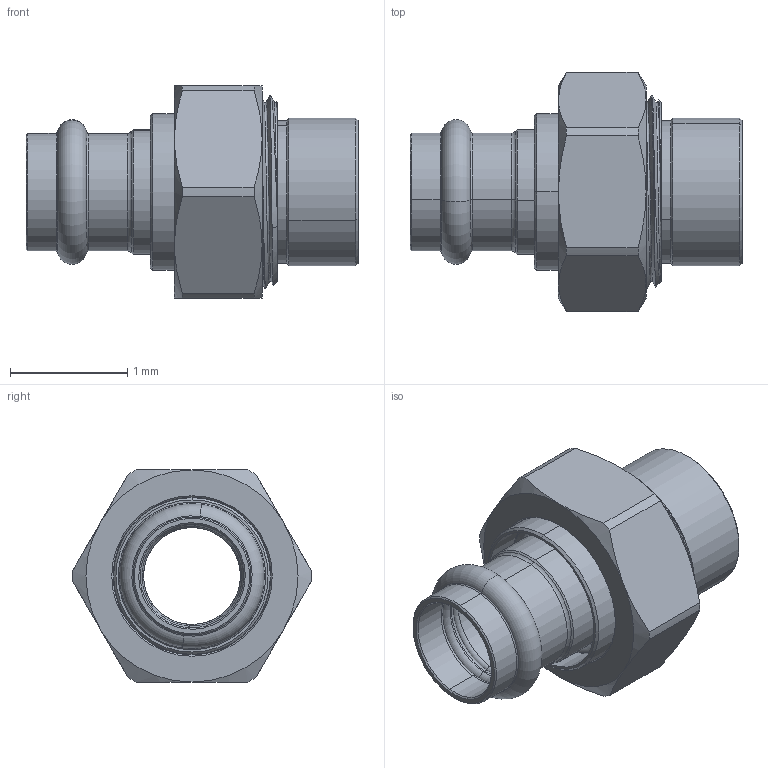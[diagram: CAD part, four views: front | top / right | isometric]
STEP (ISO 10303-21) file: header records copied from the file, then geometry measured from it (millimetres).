
FILE_DESCRIPTION(('Open CASCADE Model'),'2;1');
FILE_NAME('Open CASCADE Shape Model','2022-06-28T09:14:26',('Author'),( 'Open CASCADE'),'Open CASCADE STEP processor 7.3','Open CASCADE 7.3' ,'Unknown');
FILE_SCHEMA(('AUTOMOTIVE_DESIGN { 1 0 10303 214 1 1 1 1 }'));
Length unit declared in the file: millimetre
Products named in the file (7): Open CASCADE STEP translator 7.3 1; Open CASCADE STEP translator 7.3 1.1; Open CASCADE STEP translator 7.3 1.2; Open CASCADE STEP translator 7.3 1.3; Open CASCADE STEP translator 7.3 1.4; Open CASCADE STEP translator 7.3 1.5; Open CASCADE STEP translator 7.3 1.6
Assembly tree (6 placements, depth 2):
  Open CASCADE STEP translator 7.3 1
    Open CASCADE STEP translator 7.3 1.1
    Open CASCADE STEP translator 7.3 1.2
    Open CASCADE STEP translator 7.3 1.3
    Open CASCADE STEP translator 7.3 1.4
    Open CASCADE STEP translator 7.3 1.5
    Open CASCADE STEP translator 7.3 1.6
Bounding box: 2.84 x 2.05 x 1.81 mm (x, y, z)
Volume: 2.5 mm3; surface area: 49.6 mm2
Topology: 6 solids, 6 shells, 199 faces, 465 edges, 284 vertices
Faces by surface type: cone 76, cylinder 70, plane 26, torus 18, bspline 9
Entity records: 42793 total; most frequent: CARTESIAN_POINT 33879, DIRECTION 1506, ORIENTED_EDGE 930, PCURVE 930, DEFINITIONAL_REPRESENTATION 930, LINE 692, VECTOR 692, EDGE_CURVE 465
